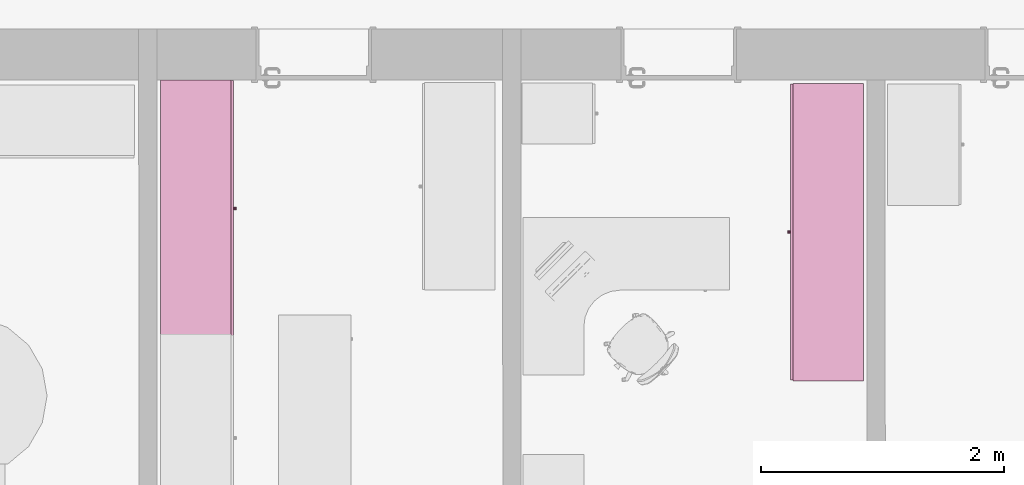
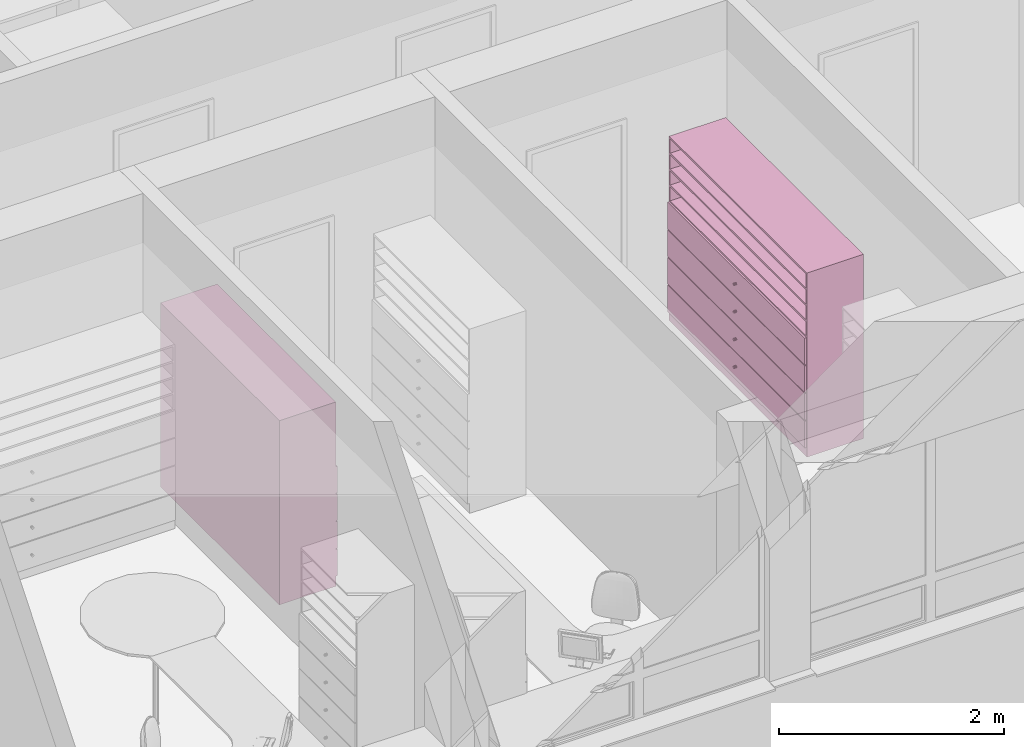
# One storey, part 181 of 194: 2 furnishings.
"""IFC2X3 building model written with IfcOpenShell, lengths in millimetres."""

from ifc_helpers import new_model, entity, si_unit, converted_unit, derived_unit, money_unit, direction, frame, origin_with_axes, place, context, subcontext, project, spatial, faceted_brep, type_object, element, save


model = new_model("IFC2X3")

# Units and contexts
model_context = context("Model", 3, precision=1e-05, world=origin_with_axes(), true_north=direction((0.0, 1.0)))
body_context = subcontext(model_context, "Body", "Model", "MODEL_VIEW")
ifc_project = project(units=[si_unit("LENGTHUNIT", "METRE", prefix="MILLI"), si_unit("AREAUNIT", "SQUARE_METRE"), si_unit("VOLUMEUNIT", "CUBIC_METRE"), converted_unit("PLANEANGLEUNIT", "DEGREE", entity("IfcPlaneAngleMeasure", 0.0174532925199), si_unit("PLANEANGLEUNIT", "RADIAN"), dimensions=[0, 0, 0, 0, 0, 0, 0]), si_unit("SOLIDANGLEUNIT", "STERADIAN"), money_unit("EUR"), converted_unit("TIMEUNIT", "Year", entity("IfcTimeMeasure", 31556926.0), si_unit("TIMEUNIT", "SECOND"), dimensions=[0, 0, 1, 0, 0, 0, 0]), si_unit("MASSUNIT", "GRAM", prefix="KILO"), si_unit("THERMODYNAMICTEMPERATUREUNIT", "DEGREE_CELSIUS"), si_unit("LUMINOUSINTENSITYUNIT", "LUMEN"), si_unit("ENERGYUNIT", "JOULE", prefix="MEGA"), derived_unit("THERMALCONDUCTANCEUNIT", [(si_unit("POWERUNIT", "WATT"), 1), (si_unit("LENGTHUNIT", "METRE"), -1), (si_unit("THERMODYNAMICTEMPERATUREUNIT", "KELVIN"), -1)]), derived_unit("SPECIFICHEATCAPACITYUNIT", [(si_unit("ENERGYUNIT", "JOULE"), 1), (si_unit("MASSUNIT", "GRAM", prefix="KILO"), -1), (si_unit("THERMODYNAMICTEMPERATUREUNIT", "KELVIN"), -1)]), derived_unit("MASSDENSITYUNIT", [(si_unit("MASSUNIT", "GRAM", prefix="KILO"), 1), (si_unit("VOLUMEUNIT", "CUBIC_METRE"), -1)])], contexts=[model_context])

# Site, building, storey
site_placement = place(None, origin_with_axes())
site = spatial("IfcSite", under=ifc_project, at=site_placement, Name="Site", CompositionType="ELEMENT")
building_placement = place(site_placement, origin_with_axes())
building = spatial("IfcBuilding", under=site, at=building_placement, Name="Building", CompositionType="ELEMENT")
storey_placement = place(building_placement, frame((0.0, 0.0, 3000.0), z_axis=(0.0, 0.0, 1.0), x_axis=(1.0, 0.0, 0.0)))
storey = spatial("IfcBuildingStorey", under=building, at=storey_placement, Name="2 KORRUS", CompositionType="ELEMENT", Elevation=3000.0)

# Furnishings
furnishing_element_type_1 = type_object("IfcFurnishingElementType", Name="Model Element 37")
furnishing_1_placement = place(storey_placement, frame((22784.0873553, 63097.0721949, 0.0), z_axis=(0.0, 0.0, 1.0), x_axis=(0.0, 1.0, 0.0)))
element("IfcFurnishingElement", 1, at=furnishing_1_placement, inside=storey, type_object=furnishing_element_type_1, Name="FU - 001", context=body_context, shape_type="Brep", body=[
    faceted_brep([(2113.10759354, 19.0, 0.0), (0.0, 19.0, 0.0), (0.0, 599.5931731, 0.0), (2113.10759354, 599.5931731, 0.0), (2113.10759354, 19.0, 100.0), (0.0, 19.0, 100.0), (0.0, 599.5931731, 100.0), (2113.10759354, 599.5931731, 100.0)], [[[0, 1, 2, 3]], [[1, 0, 4, 5]], [[2, 1, 5, 6]], [[3, 2, 6, 7]], [[0, 3, 7, 4]], [[5, 4, 7, 6]]]),
    faceted_brep([(19.0, 599.5931731, 119.0), (19.0, 580.5931731, 119.0), (19.0, 580.5931731, 1981.0), (19.0, 599.5931731, 1981.0), (2094.10759354, 599.5931731, 119.0), (2094.10759354, 580.5931731, 119.0), (2094.10759354, 580.5931731, 1981.0), (2094.10759354, 599.5931731, 1981.0)], [[[0, 1, 2, 3]], [[0, 4, 5, 1]], [[1, 5, 6, 2]], [[3, 2, 6, 7]], [[4, 0, 3, 7]], [[5, 4, 7, 6]]]),
    faceted_brep([(2113.10759354, 19.0, 100.0), (2094.10759354, 19.0, 100.0), (2094.10759354, 599.5931731, 100.0), (2113.10759354, 599.5931731, 100.0), (2113.10759354, 19.0, 2000.0), (2094.10759354, 19.0, 2000.0), (2094.10759354, 599.5931731, 2000.0), (2113.10759354, 599.5931731, 2000.0)], [[[0, 1, 2, 3]], [[1, 0, 4, 5]], [[2, 1, 5, 6]], [[3, 2, 6, 7]], [[0, 3, 7, 4]], [[5, 4, 7, 6]]]),
    faceted_brep([(19.0, 19.0, 100.0), (0.0, 19.0, 100.0), (0.0, 599.5931731, 100.0), (19.0, 599.5931731, 100.0), (19.0, 19.0, 2000.0), (0.0, 19.0, 2000.0), (0.0, 599.5931731, 2000.0), (19.0, 599.5931731, 2000.0)], [[[0, 1, 2, 3]], [[1, 0, 4, 5]], [[2, 1, 5, 6]], [[3, 2, 6, 7]], [[0, 3, 7, 4]], [[5, 4, 7, 6]]]),
    faceted_brep([(2094.10759354, 19.0, 100.0), (19.0, 19.0, 100.0), (19.0, 599.5931731, 100.0), (2094.10759354, 599.5931731, 100.0), (2094.10759354, 19.0, 119.0), (19.0, 19.0, 119.0), (19.0, 599.5931731, 119.0), (2094.10759354, 599.5931731, 119.0)], [[[0, 1, 2, 3]], [[1, 0, 4, 5]], [[2, 1, 5, 6]], [[3, 2, 6, 7]], [[0, 3, 7, 4]], [[5, 4, 7, 6]]]),
    faceted_brep([(2094.10759354, 19.0, 1981.0), (19.0, 19.0, 1981.0), (19.0, 599.5931731, 1981.0), (2094.10759354, 599.5931731, 1981.0), (2094.10759354, 19.0, 2000.0), (19.0, 19.0, 2000.0), (19.0, 599.5931731, 2000.0), (2094.10759354, 599.5931731, 2000.0)], [[[0, 1, 2, 3]], [[1, 0, 4, 5]], [[2, 1, 5, 6]], [[3, 2, 6, 7]], [[0, 3, 7, 4]], [[5, 4, 7, 6]]]),
    faceted_brep([(5.0, 19.0, 105.0), (2108.10759354, 19.0, 105.0), (2108.10759354, 0.0, 105.0), (5.0, 0.0, 105.0), (5.0, 19.0, 395.0), (2108.10759354, 19.0, 395.0), (2108.10759354, 0.0, 395.0), (5.0, 0.0, 395.0)], [[[0, 1, 2, 3]], [[0, 4, 5, 1]], [[1, 5, 6, 2]], [[3, 2, 6, 7]], [[4, 0, 3, 7]], [[5, 4, 7, 6]]]),
    faceted_brep([(1066.94610161, 0.0, 244.0), (1062.55379677, 0.0, 239.607695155), (1056.55379677, 0.0, 238.0), (1050.55379677, 0.0, 239.607695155), (1046.16149192, 0.0, 244.0), (1044.55379677, 0.0, 250.0), (1046.16149192, 0.0, 256.0), (1050.55379677, 0.0, 260.392304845), (1056.55379677, 0.0, 262.0), (1062.55379677, 0.0, 260.392304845), (1066.94610161, 0.0, 256.0), (1068.55379677, 0.0, 250.0), (1066.94610161, -25.0, 244.0), (1062.55379677, -25.0, 239.607695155), (1056.55379677, -25.0, 238.0), (1050.55379677, -25.0, 239.607695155), (1046.16149192, -25.0, 244.0), (1044.55379677, -25.0, 250.0), (1046.16149192, -25.0, 256.0), (1050.55379677, -25.0, 260.392304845), (1056.55379677, -25.0, 262.0), (1062.55379677, -25.0, 260.392304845), (1066.94610161, -25.0, 256.0), (1068.55379677, -25.0, 250.0)], [[[0, 1, 2, 3, 4, 5, 6, 7, 8, 9, 10, 11]], [[1, 0, 12, 13]], [[2, 1, 13, 14]], [[3, 2, 14, 15]], [[4, 3, 15, 16]], [[5, 4, 16, 17]], [[6, 5, 17, 18]], [[7, 6, 18, 19]], [[8, 7, 19, 20]], [[9, 8, 20, 21]], [[10, 9, 21, 22]], [[11, 10, 22, 23]], [[0, 11, 23, 12]], [[12, 23, 22, 21, 20, 19, 18, 17, 16, 15, 14, 13]]]),
    faceted_brep([(5.0, 19.0, 405.0), (2108.10759354, 19.0, 405.0), (2108.10759354, 0.0, 405.0), (5.0, 0.0, 405.0), (5.0, 19.0, 695.0), (2108.10759354, 19.0, 695.0), (2108.10759354, 0.0, 695.0), (5.0, 0.0, 695.0)], [[[0, 1, 2, 3]], [[0, 4, 5, 1]], [[1, 5, 6, 2]], [[3, 2, 6, 7]], [[4, 0, 3, 7]], [[5, 4, 7, 6]]]),
    faceted_brep([(1066.94610161, 0.0, 544.0), (1062.55379677, 0.0, 539.607695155), (1056.55379677, 0.0, 538.0), (1050.55379677, 0.0, 539.607695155), (1046.16149192, 0.0, 544.0), (1044.55379677, 0.0, 550.0), (1046.16149192, 0.0, 556.0), (1050.55379677, 0.0, 560.392304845), (1056.55379677, 0.0, 562.0), (1062.55379677, 0.0, 560.392304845), (1066.94610161, 0.0, 556.0), (1068.55379677, 0.0, 550.0), (1066.94610161, -25.0, 544.0), (1062.55379677, -25.0, 539.607695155), (1056.55379677, -25.0, 538.0), (1050.55379677, -25.0, 539.607695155), (1046.16149192, -25.0, 544.0), (1044.55379677, -25.0, 550.0), (1046.16149192, -25.0, 556.0), (1050.55379677, -25.0, 560.392304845), (1056.55379677, -25.0, 562.0), (1062.55379677, -25.0, 560.392304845), (1066.94610161, -25.0, 556.0), (1068.55379677, -25.0, 550.0)], [[[0, 1, 2, 3, 4, 5, 6, 7, 8, 9, 10, 11]], [[1, 0, 12, 13]], [[2, 1, 13, 14]], [[3, 2, 14, 15]], [[4, 3, 15, 16]], [[5, 4, 16, 17]], [[6, 5, 17, 18]], [[7, 6, 18, 19]], [[8, 7, 19, 20]], [[9, 8, 20, 21]], [[10, 9, 21, 22]], [[11, 10, 22, 23]], [[0, 11, 23, 12]], [[12, 23, 22, 21, 20, 19, 18, 17, 16, 15, 14, 13]]]),
    faceted_brep([(5.0, 19.0, 705.0), (2108.10759354, 19.0, 705.0), (2108.10759354, 0.0, 705.0), (5.0, 0.0, 705.0), (5.0, 19.0, 995.0), (2108.10759354, 19.0, 995.0), (2108.10759354, 0.0, 995.0), (5.0, 0.0, 995.0)], [[[0, 1, 2, 3]], [[0, 4, 5, 1]], [[1, 5, 6, 2]], [[3, 2, 6, 7]], [[4, 0, 3, 7]], [[5, 4, 7, 6]]]),
    faceted_brep([(1066.94610161, 0.0, 844.0), (1062.55379677, 0.0, 839.607695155), (1056.55379677, 0.0, 838.0), (1050.55379677, 0.0, 839.607695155), (1046.16149192, 0.0, 844.0), (1044.55379677, 0.0, 850.0), (1046.16149192, 0.0, 856.0), (1050.55379677, 0.0, 860.392304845), (1056.55379677, 0.0, 862.0), (1062.55379677, 0.0, 860.392304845), (1066.94610161, 0.0, 856.0), (1068.55379677, 0.0, 850.0), (1066.94610161, -25.0, 844.0), (1062.55379677, -25.0, 839.607695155), (1056.55379677, -25.0, 838.0), (1050.55379677, -25.0, 839.607695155), (1046.16149192, -25.0, 844.0), (1044.55379677, -25.0, 850.0), (1046.16149192, -25.0, 856.0), (1050.55379677, -25.0, 860.392304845), (1056.55379677, -25.0, 862.0), (1062.55379677, -25.0, 860.392304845), (1066.94610161, -25.0, 856.0), (1068.55379677, -25.0, 850.0)], [[[0, 1, 2, 3, 4, 5, 6, 7, 8, 9, 10, 11]], [[1, 0, 12, 13]], [[2, 1, 13, 14]], [[3, 2, 14, 15]], [[4, 3, 15, 16]], [[5, 4, 16, 17]], [[6, 5, 17, 18]], [[7, 6, 18, 19]], [[8, 7, 19, 20]], [[9, 8, 20, 21]], [[10, 9, 21, 22]], [[11, 10, 22, 23]], [[0, 11, 23, 12]], [[12, 23, 22, 21, 20, 19, 18, 17, 16, 15, 14, 13]]]),
    faceted_brep([(5.0, 19.0, 1005.0), (2108.10759354, 19.0, 1005.0), (2108.10759354, 0.0, 1005.0), (5.0, 0.0, 1005.0), (5.0, 19.0, 1295.0), (2108.10759354, 19.0, 1295.0), (2108.10759354, 0.0, 1295.0), (5.0, 0.0, 1295.0)], [[[0, 1, 2, 3]], [[0, 4, 5, 1]], [[1, 5, 6, 2]], [[3, 2, 6, 7]], [[4, 0, 3, 7]], [[5, 4, 7, 6]]]),
    faceted_brep([(1066.94610161, 0.0, 1144.0), (1062.55379677, 0.0, 1139.60769515), (1056.55379677, 0.0, 1138.0), (1050.55379677, 0.0, 1139.60769515), (1046.16149192, 0.0, 1144.0), (1044.55379677, 0.0, 1150.0), (1046.16149192, 0.0, 1156.0), (1050.55379677, 0.0, 1160.39230485), (1056.55379677, 0.0, 1162.0), (1062.55379677, 0.0, 1160.39230485), (1066.94610161, 0.0, 1156.0), (1068.55379677, 0.0, 1150.0), (1066.94610161, -25.0, 1144.0), (1062.55379677, -25.0, 1139.60769515), (1056.55379677, -25.0, 1138.0), (1050.55379677, -25.0, 1139.60769515), (1046.16149192, -25.0, 1144.0), (1044.55379677, -25.0, 1150.0), (1046.16149192, -25.0, 1156.0), (1050.55379677, -25.0, 1160.39230485), (1056.55379677, -25.0, 1162.0), (1062.55379677, -25.0, 1160.39230485), (1066.94610161, -25.0, 1156.0), (1068.55379677, -25.0, 1150.0)], [[[0, 1, 2, 3, 4, 5, 6, 7, 8, 9, 10, 11]], [[1, 0, 12, 13]], [[2, 1, 13, 14]], [[3, 2, 14, 15]], [[4, 3, 15, 16]], [[5, 4, 16, 17]], [[6, 5, 17, 18]], [[7, 6, 18, 19]], [[8, 7, 19, 20]], [[9, 8, 20, 21]], [[10, 9, 21, 22]], [[11, 10, 22, 23]], [[0, 11, 23, 12]], [[12, 23, 22, 21, 20, 19, 18, 17, 16, 15, 14, 13]]]),
    faceted_brep([(19.0, 19.0, 390.5), (2094.10759354, 19.0, 390.5), (2094.10759354, 19.0, 409.5), (19.0, 19.0, 409.5), (19.0, 580.5931731, 390.5), (2094.10759354, 580.5931731, 390.5), (2094.10759354, 580.5931731, 409.5), (19.0, 580.5931731, 409.5)], [[[0, 1, 2, 3]], [[0, 4, 5, 1]], [[1, 5, 6, 2]], [[3, 2, 6, 7]], [[4, 0, 3, 7]], [[5, 4, 7, 6]]]),
    faceted_brep([(19.0, 19.0, 690.5), (2094.10759354, 19.0, 690.5), (2094.10759354, 19.0, 709.5), (19.0, 19.0, 709.5), (19.0, 580.5931731, 690.5), (2094.10759354, 580.5931731, 690.5), (2094.10759354, 580.5931731, 709.5), (19.0, 580.5931731, 709.5)], [[[0, 1, 2, 3]], [[0, 4, 5, 1]], [[1, 5, 6, 2]], [[3, 2, 6, 7]], [[4, 0, 3, 7]], [[5, 4, 7, 6]]]),
    faceted_brep([(19.0, 19.0, 990.5), (2094.10759354, 19.0, 990.5), (2094.10759354, 19.0, 1009.5), (19.0, 19.0, 1009.5), (19.0, 580.5931731, 990.5), (2094.10759354, 580.5931731, 990.5), (2094.10759354, 580.5931731, 1009.5), (19.0, 580.5931731, 1009.5)], [[[0, 1, 2, 3]], [[0, 4, 5, 1]], [[1, 5, 6, 2]], [[3, 2, 6, 7]], [[4, 0, 3, 7]], [[5, 4, 7, 6]]]),
    faceted_brep([(19.0, 19.0, 1290.5), (2094.10759354, 19.0, 1290.5), (2094.10759354, 19.0, 1309.5), (19.0, 19.0, 1309.5), (19.0, 580.5931731, 1290.5), (2094.10759354, 580.5931731, 1290.5), (2094.10759354, 580.5931731, 1309.5), (19.0, 580.5931731, 1309.5)], [[[0, 1, 2, 3]], [[0, 4, 5, 1]], [[1, 5, 6, 2]], [[3, 2, 6, 7]], [[4, 0, 3, 7]], [[5, 4, 7, 6]]]),
    faceted_brep([(2094.10759354, 19.0, 1463.125), (19.0, 19.0, 1463.125), (19.0, 580.5931731, 1463.125), (2094.10759354, 580.5931731, 1463.125), (2094.10759354, 19.0, 1482.125), (19.0, 19.0, 1482.125), (19.0, 580.5931731, 1482.125), (2094.10759354, 580.5931731, 1482.125)], [[[0, 1, 2, 3]], [[1, 0, 4, 5]], [[2, 1, 5, 6]], [[3, 2, 6, 7]], [[0, 3, 7, 4]], [[5, 4, 7, 6]]]),
    faceted_brep([(2094.10759354, 19.0, 1635.75), (19.0, 19.0, 1635.75), (19.0, 580.5931731, 1635.75), (2094.10759354, 580.5931731, 1635.75), (2094.10759354, 19.0, 1654.75), (19.0, 19.0, 1654.75), (19.0, 580.5931731, 1654.75), (2094.10759354, 580.5931731, 1654.75)], [[[0, 1, 2, 3]], [[1, 0, 4, 5]], [[2, 1, 5, 6]], [[3, 2, 6, 7]], [[0, 3, 7, 4]], [[5, 4, 7, 6]]]),
    faceted_brep([(2094.10759354, 19.0, 1808.375), (19.0, 19.0, 1808.375), (19.0, 580.5931731, 1808.375), (2094.10759354, 580.5931731, 1808.375), (2094.10759354, 19.0, 1827.375), (19.0, 19.0, 1827.375), (19.0, 580.5931731, 1827.375), (2094.10759354, 580.5931731, 1827.375)], [[[0, 1, 2, 3]], [[1, 0, 4, 5]], [[2, 1, 5, 6]], [[3, 2, 6, 7]], [[0, 3, 7, 4]], [[5, 4, 7, 6]]]),
])
furnishing_element_type_2 = type_object("IfcFurnishingElementType", Name="Model Element 31")
furnishing_2_placement = place(storey_placement, frame((27372.643032, 65184.0894913, 0.0), z_axis=(0.0, 0.0, 1.0), x_axis=(0.0, -1.0, 0.0)))
element("IfcFurnishingElement", 2, at=furnishing_2_placement, inside=storey, type_object=furnishing_element_type_2, Name="FU - 001", context=body_context, shape_type="Brep", body=[
    faceted_brep([(2449.61415101, 19.0, 0.0), (0.0, 19.0, 0.0), (0.0, 600.0, 0.0), (2449.61415101, 600.0, 0.0), (2449.61415101, 19.0, 100.0), (0.0, 19.0, 100.0), (0.0, 600.0, 100.0), (2449.61415101, 600.0, 100.0)], [[[0, 1, 2, 3]], [[1, 0, 4, 5]], [[2, 1, 5, 6]], [[3, 2, 6, 7]], [[0, 3, 7, 4]], [[5, 4, 7, 6]]]),
    faceted_brep([(19.0, 600.0, 119.0), (19.0, 581.0, 119.0), (19.0, 581.0, 1981.0), (19.0, 600.0, 1981.0), (2430.61415101, 600.0, 119.0), (2430.61415101, 581.0, 119.0), (2430.61415101, 581.0, 1981.0), (2430.61415101, 600.0, 1981.0)], [[[0, 1, 2, 3]], [[0, 4, 5, 1]], [[1, 5, 6, 2]], [[3, 2, 6, 7]], [[4, 0, 3, 7]], [[5, 4, 7, 6]]]),
    faceted_brep([(2449.61415101, 19.0, 100.0), (2430.61415101, 19.0, 100.0), (2430.61415101, 600.0, 100.0), (2449.61415101, 600.0, 100.0), (2449.61415101, 19.0, 2000.0), (2430.61415101, 19.0, 2000.0), (2430.61415101, 600.0, 2000.0), (2449.61415101, 600.0, 2000.0)], [[[0, 1, 2, 3]], [[1, 0, 4, 5]], [[2, 1, 5, 6]], [[3, 2, 6, 7]], [[0, 3, 7, 4]], [[5, 4, 7, 6]]]),
    faceted_brep([(19.0, 19.0, 100.0), (0.0, 19.0, 100.0), (0.0, 600.0, 100.0), (19.0, 600.0, 100.0), (19.0, 19.0, 2000.0), (0.0, 19.0, 2000.0), (0.0, 600.0, 2000.0), (19.0, 600.0, 2000.0)], [[[0, 1, 2, 3]], [[1, 0, 4, 5]], [[2, 1, 5, 6]], [[3, 2, 6, 7]], [[0, 3, 7, 4]], [[5, 4, 7, 6]]]),
    faceted_brep([(2430.61415101, 19.0, 100.0), (19.0, 19.0, 100.0), (19.0, 600.0, 100.0), (2430.61415101, 600.0, 100.0), (2430.61415101, 19.0, 119.0), (19.0, 19.0, 119.0), (19.0, 600.0, 119.0), (2430.61415101, 600.0, 119.0)], [[[0, 1, 2, 3]], [[1, 0, 4, 5]], [[2, 1, 5, 6]], [[3, 2, 6, 7]], [[0, 3, 7, 4]], [[5, 4, 7, 6]]]),
    faceted_brep([(2430.61415101, 19.0, 1981.0), (19.0, 19.0, 1981.0), (19.0, 600.0, 1981.0), (2430.61415101, 600.0, 1981.0), (2430.61415101, 19.0, 2000.0), (19.0, 19.0, 2000.0), (19.0, 600.0, 2000.0), (2430.61415101, 600.0, 2000.0)], [[[0, 1, 2, 3]], [[1, 0, 4, 5]], [[2, 1, 5, 6]], [[3, 2, 6, 7]], [[0, 3, 7, 4]], [[5, 4, 7, 6]]]),
    faceted_brep([(5.0, 19.0, 105.0), (2444.61415101, 19.0, 105.0), (2444.61415101, 0.0, 105.0), (5.0, 0.0, 105.0), (5.0, 19.0, 395.0), (2444.61415101, 19.0, 395.0), (2444.61415101, 0.0, 395.0), (5.0, 0.0, 395.0)], [[[0, 1, 2, 3]], [[0, 4, 5, 1]], [[1, 5, 6, 2]], [[3, 2, 6, 7]], [[4, 0, 3, 7]], [[5, 4, 7, 6]]]),
    faceted_brep([(1235.19938035, 0.0, 244.0), (1230.80707551, 0.0, 239.607695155), (1224.80707551, 0.0, 238.0), (1218.80707551, 0.0, 239.607695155), (1214.41477066, 0.0, 244.0), (1212.80707551, 0.0, 250.0), (1214.41477066, 0.0, 256.0), (1218.80707551, 0.0, 260.392304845), (1224.80707551, 0.0, 262.0), (1230.80707551, 0.0, 260.392304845), (1235.19938035, 0.0, 256.0), (1236.80707551, 0.0, 250.0), (1235.19938035, -25.0, 244.0), (1230.80707551, -25.0, 239.607695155), (1224.80707551, -25.0, 238.0), (1218.80707551, -25.0, 239.607695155), (1214.41477066, -25.0, 244.0), (1212.80707551, -25.0, 250.0), (1214.41477066, -25.0, 256.0), (1218.80707551, -25.0, 260.392304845), (1224.80707551, -25.0, 262.0), (1230.80707551, -25.0, 260.392304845), (1235.19938035, -25.0, 256.0), (1236.80707551, -25.0, 250.0)], [[[0, 1, 2, 3, 4, 5, 6, 7, 8, 9, 10, 11]], [[1, 0, 12, 13]], [[2, 1, 13, 14]], [[3, 2, 14, 15]], [[4, 3, 15, 16]], [[5, 4, 16, 17]], [[6, 5, 17, 18]], [[7, 6, 18, 19]], [[8, 7, 19, 20]], [[9, 8, 20, 21]], [[10, 9, 21, 22]], [[11, 10, 22, 23]], [[0, 11, 23, 12]], [[12, 23, 22, 21, 20, 19, 18, 17, 16, 15, 14, 13]]]),
    faceted_brep([(5.0, 19.0, 405.0), (2444.61415101, 19.0, 405.0), (2444.61415101, 0.0, 405.0), (5.0, 0.0, 405.0), (5.0, 19.0, 695.0), (2444.61415101, 19.0, 695.0), (2444.61415101, 0.0, 695.0), (5.0, 0.0, 695.0)], [[[0, 1, 2, 3]], [[0, 4, 5, 1]], [[1, 5, 6, 2]], [[3, 2, 6, 7]], [[4, 0, 3, 7]], [[5, 4, 7, 6]]]),
    faceted_brep([(1235.19938035, 0.0, 544.0), (1230.80707551, 0.0, 539.607695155), (1224.80707551, 0.0, 538.0), (1218.80707551, 0.0, 539.607695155), (1214.41477066, 0.0, 544.0), (1212.80707551, 0.0, 550.0), (1214.41477066, 0.0, 556.0), (1218.80707551, 0.0, 560.392304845), (1224.80707551, 0.0, 562.0), (1230.80707551, 0.0, 560.392304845), (1235.19938035, 0.0, 556.0), (1236.80707551, 0.0, 550.0), (1235.19938035, -25.0, 544.0), (1230.80707551, -25.0, 539.607695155), (1224.80707551, -25.0, 538.0), (1218.80707551, -25.0, 539.607695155), (1214.41477066, -25.0, 544.0), (1212.80707551, -25.0, 550.0), (1214.41477066, -25.0, 556.0), (1218.80707551, -25.0, 560.392304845), (1224.80707551, -25.0, 562.0), (1230.80707551, -25.0, 560.392304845), (1235.19938035, -25.0, 556.0), (1236.80707551, -25.0, 550.0)], [[[0, 1, 2, 3, 4, 5, 6, 7, 8, 9, 10, 11]], [[1, 0, 12, 13]], [[2, 1, 13, 14]], [[3, 2, 14, 15]], [[4, 3, 15, 16]], [[5, 4, 16, 17]], [[6, 5, 17, 18]], [[7, 6, 18, 19]], [[8, 7, 19, 20]], [[9, 8, 20, 21]], [[10, 9, 21, 22]], [[11, 10, 22, 23]], [[0, 11, 23, 12]], [[12, 23, 22, 21, 20, 19, 18, 17, 16, 15, 14, 13]]]),
    faceted_brep([(5.0, 19.0, 705.0), (2444.61415101, 19.0, 705.0), (2444.61415101, 0.0, 705.0), (5.0, 0.0, 705.0), (5.0, 19.0, 995.0), (2444.61415101, 19.0, 995.0), (2444.61415101, 0.0, 995.0), (5.0, 0.0, 995.0)], [[[0, 1, 2, 3]], [[0, 4, 5, 1]], [[1, 5, 6, 2]], [[3, 2, 6, 7]], [[4, 0, 3, 7]], [[5, 4, 7, 6]]]),
    faceted_brep([(1235.19938035, 0.0, 844.0), (1230.80707551, 0.0, 839.607695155), (1224.80707551, 0.0, 838.0), (1218.80707551, 0.0, 839.607695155), (1214.41477066, 0.0, 844.0), (1212.80707551, 0.0, 850.0), (1214.41477066, 0.0, 856.0), (1218.80707551, 0.0, 860.392304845), (1224.80707551, 0.0, 862.0), (1230.80707551, 0.0, 860.392304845), (1235.19938035, 0.0, 856.0), (1236.80707551, 0.0, 850.0), (1235.19938035, -25.0, 844.0), (1230.80707551, -25.0, 839.607695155), (1224.80707551, -25.0, 838.0), (1218.80707551, -25.0, 839.607695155), (1214.41477066, -25.0, 844.0), (1212.80707551, -25.0, 850.0), (1214.41477066, -25.0, 856.0), (1218.80707551, -25.0, 860.392304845), (1224.80707551, -25.0, 862.0), (1230.80707551, -25.0, 860.392304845), (1235.19938035, -25.0, 856.0), (1236.80707551, -25.0, 850.0)], [[[0, 1, 2, 3, 4, 5, 6, 7, 8, 9, 10, 11]], [[1, 0, 12, 13]], [[2, 1, 13, 14]], [[3, 2, 14, 15]], [[4, 3, 15, 16]], [[5, 4, 16, 17]], [[6, 5, 17, 18]], [[7, 6, 18, 19]], [[8, 7, 19, 20]], [[9, 8, 20, 21]], [[10, 9, 21, 22]], [[11, 10, 22, 23]], [[0, 11, 23, 12]], [[12, 23, 22, 21, 20, 19, 18, 17, 16, 15, 14, 13]]]),
    faceted_brep([(5.0, 19.0, 1005.0), (2444.61415101, 19.0, 1005.0), (2444.61415101, 0.0, 1005.0), (5.0, 0.0, 1005.0), (5.0, 19.0, 1295.0), (2444.61415101, 19.0, 1295.0), (2444.61415101, 0.0, 1295.0), (5.0, 0.0, 1295.0)], [[[0, 1, 2, 3]], [[0, 4, 5, 1]], [[1, 5, 6, 2]], [[3, 2, 6, 7]], [[4, 0, 3, 7]], [[5, 4, 7, 6]]]),
    faceted_brep([(1235.19938035, 0.0, 1144.0), (1230.80707551, 0.0, 1139.60769515), (1224.80707551, 0.0, 1138.0), (1218.80707551, 0.0, 1139.60769515), (1214.41477066, 0.0, 1144.0), (1212.80707551, 0.0, 1150.0), (1214.41477066, 0.0, 1156.0), (1218.80707551, 0.0, 1160.39230485), (1224.80707551, 0.0, 1162.0), (1230.80707551, 0.0, 1160.39230485), (1235.19938035, 0.0, 1156.0), (1236.80707551, 0.0, 1150.0), (1235.19938035, -25.0, 1144.0), (1230.80707551, -25.0, 1139.60769515), (1224.80707551, -25.0, 1138.0), (1218.80707551, -25.0, 1139.60769515), (1214.41477066, -25.0, 1144.0), (1212.80707551, -25.0, 1150.0), (1214.41477066, -25.0, 1156.0), (1218.80707551, -25.0, 1160.39230485), (1224.80707551, -25.0, 1162.0), (1230.80707551, -25.0, 1160.39230485), (1235.19938035, -25.0, 1156.0), (1236.80707551, -25.0, 1150.0)], [[[0, 1, 2, 3, 4, 5, 6, 7, 8, 9, 10, 11]], [[1, 0, 12, 13]], [[2, 1, 13, 14]], [[3, 2, 14, 15]], [[4, 3, 15, 16]], [[5, 4, 16, 17]], [[6, 5, 17, 18]], [[7, 6, 18, 19]], [[8, 7, 19, 20]], [[9, 8, 20, 21]], [[10, 9, 21, 22]], [[11, 10, 22, 23]], [[0, 11, 23, 12]], [[12, 23, 22, 21, 20, 19, 18, 17, 16, 15, 14, 13]]]),
    faceted_brep([(19.0, 19.0, 390.5), (2430.61415101, 19.0, 390.5), (2430.61415101, 19.0, 409.5), (19.0, 19.0, 409.5), (19.0, 581.0, 390.5), (2430.61415101, 581.0, 390.5), (2430.61415101, 581.0, 409.5), (19.0, 581.0, 409.5)], [[[0, 1, 2, 3]], [[0, 4, 5, 1]], [[1, 5, 6, 2]], [[3, 2, 6, 7]], [[4, 0, 3, 7]], [[5, 4, 7, 6]]]),
    faceted_brep([(19.0, 19.0, 690.5), (2430.61415101, 19.0, 690.5), (2430.61415101, 19.0, 709.5), (19.0, 19.0, 709.5), (19.0, 581.0, 690.5), (2430.61415101, 581.0, 690.5), (2430.61415101, 581.0, 709.5), (19.0, 581.0, 709.5)], [[[0, 1, 2, 3]], [[0, 4, 5, 1]], [[1, 5, 6, 2]], [[3, 2, 6, 7]], [[4, 0, 3, 7]], [[5, 4, 7, 6]]]),
    faceted_brep([(19.0, 19.0, 990.5), (2430.61415101, 19.0, 990.5), (2430.61415101, 19.0, 1009.5), (19.0, 19.0, 1009.5), (19.0, 581.0, 990.5), (2430.61415101, 581.0, 990.5), (2430.61415101, 581.0, 1009.5), (19.0, 581.0, 1009.5)], [[[0, 1, 2, 3]], [[0, 4, 5, 1]], [[1, 5, 6, 2]], [[3, 2, 6, 7]], [[4, 0, 3, 7]], [[5, 4, 7, 6]]]),
    faceted_brep([(19.0, 19.0, 1290.5), (2430.61415101, 19.0, 1290.5), (2430.61415101, 19.0, 1309.5), (19.0, 19.0, 1309.5), (19.0, 581.0, 1290.5), (2430.61415101, 581.0, 1290.5), (2430.61415101, 581.0, 1309.5), (19.0, 581.0, 1309.5)], [[[0, 1, 2, 3]], [[0, 4, 5, 1]], [[1, 5, 6, 2]], [[3, 2, 6, 7]], [[4, 0, 3, 7]], [[5, 4, 7, 6]]]),
    faceted_brep([(2430.61415101, 19.0, 1463.125), (19.0, 19.0, 1463.125), (19.0, 581.0, 1463.125), (2430.61415101, 581.0, 1463.125), (2430.61415101, 19.0, 1482.125), (19.0, 19.0, 1482.125), (19.0, 581.0, 1482.125), (2430.61415101, 581.0, 1482.125)], [[[0, 1, 2, 3]], [[1, 0, 4, 5]], [[2, 1, 5, 6]], [[3, 2, 6, 7]], [[0, 3, 7, 4]], [[5, 4, 7, 6]]]),
    faceted_brep([(2430.61415101, 19.0, 1635.75), (19.0, 19.0, 1635.75), (19.0, 581.0, 1635.75), (2430.61415101, 581.0, 1635.75), (2430.61415101, 19.0, 1654.75), (19.0, 19.0, 1654.75), (19.0, 581.0, 1654.75), (2430.61415101, 581.0, 1654.75)], [[[0, 1, 2, 3]], [[1, 0, 4, 5]], [[2, 1, 5, 6]], [[3, 2, 6, 7]], [[0, 3, 7, 4]], [[5, 4, 7, 6]]]),
    faceted_brep([(2430.61415101, 19.0, 1808.375), (19.0, 19.0, 1808.375), (19.0, 581.0, 1808.375), (2430.61415101, 581.0, 1808.375), (2430.61415101, 19.0, 1827.375), (19.0, 19.0, 1827.375), (19.0, 581.0, 1827.375), (2430.61415101, 581.0, 1827.375)], [[[0, 1, 2, 3]], [[1, 0, 4, 5]], [[2, 1, 5, 6]], [[3, 2, 6, 7]], [[0, 3, 7, 4]], [[5, 4, 7, 6]]]),
])

save(model, "model.ifc")
